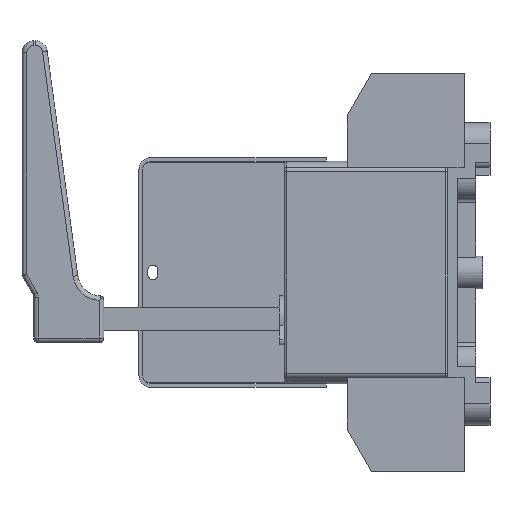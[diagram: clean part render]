
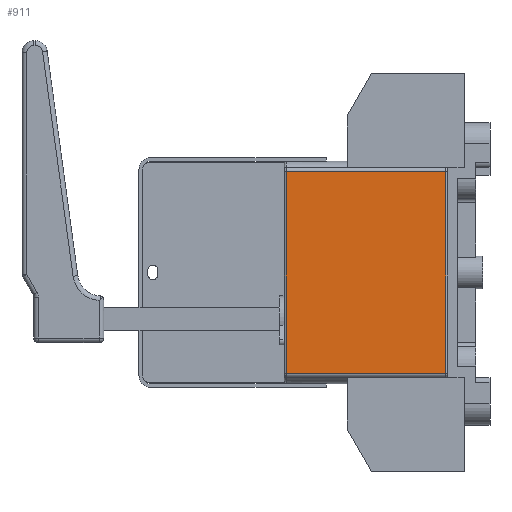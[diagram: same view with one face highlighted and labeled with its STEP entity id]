
A CAD part, left-side view. The second image highlights one B-rep face of the part: STEP entity #911.
In plain terms, the highlighted planar face has unit normal (-1, 0, 0).
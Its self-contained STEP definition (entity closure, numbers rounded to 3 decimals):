
#911=ADVANCED_FACE('',(#2629),#1953,.F.);
#1953=PLANE('',#21005);
#2629=FACE_OUTER_BOUND('',#3609,.T.);
#3609=EDGE_LOOP('',(#6260,#6261,#6262,#6263));
#6260=ORIENTED_EDGE('',*,*,#14036,.F.);
#6261=ORIENTED_EDGE('',*,*,#14037,.T.);
#6262=ORIENTED_EDGE('',*,*,#14033,.T.);
#6263=ORIENTED_EDGE('',*,*,#14038,.T.);
#11994=VERTEX_POINT('',#29881);
#11995=VERTEX_POINT('',#29882);
#11996=VERTEX_POINT('',#29887);
#11997=VERTEX_POINT('',#29888);
#14033=EDGE_CURVE('',#11994,#11995,#16852,.T.);
#14036=EDGE_CURVE('',#11996,#11997,#16853,.T.);
#14037=EDGE_CURVE('',#11996,#11994,#16854,.T.);
#14038=EDGE_CURVE('',#11995,#11997,#16855,.T.);
#16852=LINE('',#29880,#18956);
#16853=LINE('',#29886,#18957);
#16854=LINE('',#29889,#18958);
#16855=LINE('',#29890,#18959);
#18956=VECTOR('',#23446,1.);
#18957=VECTOR('',#23453,1.);
#18958=VECTOR('',#23454,1.);
#18959=VECTOR('',#23455,1.);
#21005=AXIS2_PLACEMENT_3D('',#29891,#23456,#23457);
#23446=DIRECTION('',(0.,-1.,0.));
#23453=DIRECTION('',(0.,-1.,0.));
#23454=DIRECTION('',(0.,0.,-1.));
#23455=DIRECTION('',(0.,0.,1.));
#23456=DIRECTION('',(1.,0.,0.));
#23457=DIRECTION('',(0.,0.,-1.));
#29880=CARTESIAN_POINT('',(-41.,35.,-43.));
#29881=CARTESIAN_POINT('',(-41.,69.,-43.));
#29882=CARTESIAN_POINT('',(-41.,1.,-43.));
#29886=CARTESIAN_POINT('',(-41.,35.,43.));
#29887=CARTESIAN_POINT('',(-41.,69.,43.));
#29888=CARTESIAN_POINT('',(-41.,1.,43.));
#29889=CARTESIAN_POINT('',(-41.,69.,-43.));
#29890=CARTESIAN_POINT('',(-41.,1.,-43.));
#29891=CARTESIAN_POINT('',(-41.,35.,-43.));
